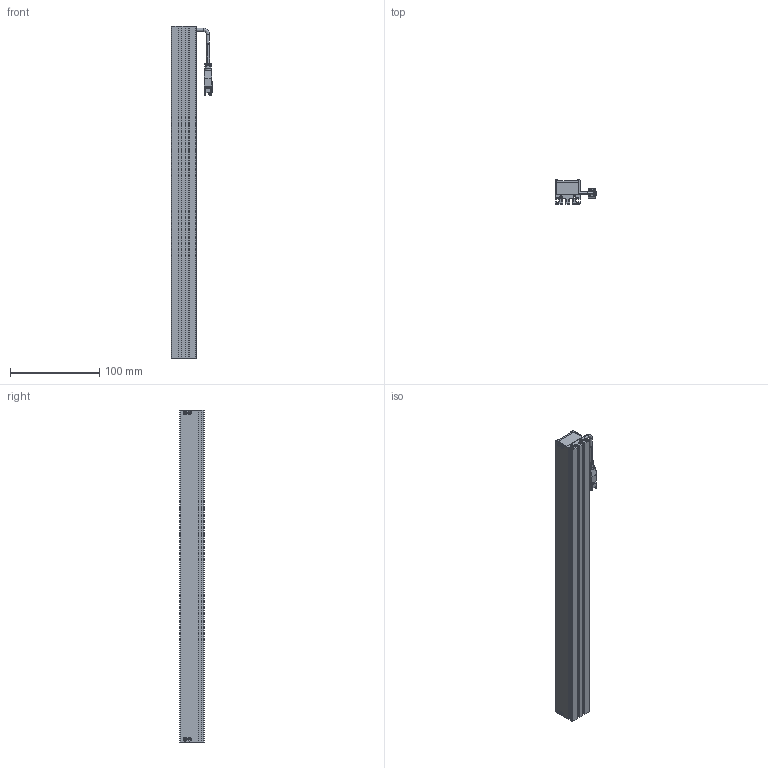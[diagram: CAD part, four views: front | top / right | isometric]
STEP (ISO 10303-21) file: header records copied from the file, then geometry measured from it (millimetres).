
FILE_DESCRIPTION (( 'STEP AP203' ), '1' );
FILE_NAME ('CST-2BS37228-¼òÒ×3DÍ¼.STEP', '2021-06-15T06:52:58', ( '' ), ( '' ), 'SwSTEP 2.0', 'SolidWorks 2018', '' );
FILE_SCHEMA (( 'CONFIG_CONTROL_DESIGN' ));
Length unit declared in the file: millimetre
Products named in the file (1): CST-2BS37228-潠眢3D芞
Bounding box: 46.62 x 27 x 372 mm (x, y, z)
Surface area: 131011.7 mm2 (no closed solid volume)
Topology: 0 solids, 14 shells, 532 faces, 1426 edges, 905 vertices
Faces by surface type: plane 293, cylinder 154, cone 51, bspline 28, torus 6
Entity records: 17114 total; most frequent: CARTESIAN_POINT 3904, ORIENTED_EDGE 2765, DIRECTION 2673, EDGE_CURVE 1406, VECTOR 965, LINE 965, VERTEX_POINT 905, AXIS2_PLACEMENT_3D 854
